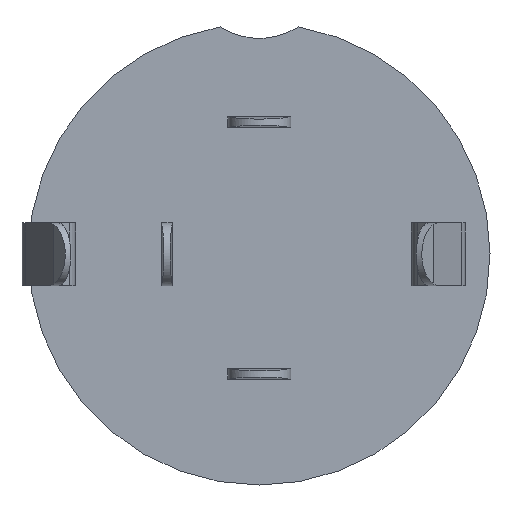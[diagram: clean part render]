
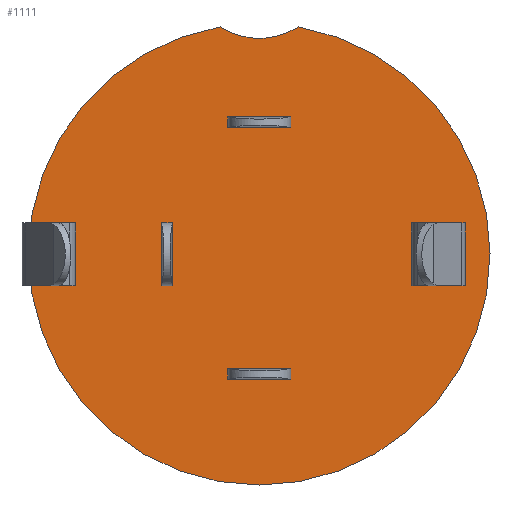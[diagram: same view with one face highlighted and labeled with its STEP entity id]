
A CAD part, front view. The second image highlights one B-rep face of the part: STEP entity #1111.
In plain terms, the highlighted planar face has unit normal (0, -1, 0).
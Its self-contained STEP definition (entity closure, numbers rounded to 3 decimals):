
#1=CARTESIAN_POINT('',(0.,0.,0.));
#2=DIRECTION('',(0.,1.,0.));
#3=DIRECTION('',(0.169,0.,0.986));
#4=AXIS2_PLACEMENT_3D('',#1,#2,#3);
#6=CARTESIAN_POINT('',(0.,0.,6.882));
#7=DIRECTION('',(0.,-1.,0.));
#8=DIRECTION('',(-0.537,0.,-0.844));
#9=AXIS2_PLACEMENT_3D('',#6,#7,#8);
#11=DIRECTION('',(1.,0.,0.));
#12=VECTOR('',#11,0.25);
#13=CARTESIAN_POINT('',(3.625,0.,-0.75));
#14=LINE('',#13,#12);
#15=DIRECTION('',(0.,0.,1.));
#16=VECTOR('',#15,1.5);
#17=CARTESIAN_POINT('',(3.875,0.,-0.75));
#18=LINE('',#17,#16);
#19=DIRECTION('',(1.,0.,0.));
#20=VECTOR('',#19,0.25);
#21=CARTESIAN_POINT('',(3.625,0.,0.75));
#22=LINE('',#21,#20);
#23=DIRECTION('',(0.,0.,1.));
#24=VECTOR('',#23,1.5);
#25=CARTESIAN_POINT('',(3.625,0.,-0.75));
#26=LINE('',#25,#24);
#27=DIRECTION('',(1.,0.,0.));
#28=VECTOR('',#27,0.25);
#29=CARTESIAN_POINT('',(-4.625,0.,-0.75));
#30=LINE('',#29,#28);
#31=DIRECTION('',(0.,0.,1.));
#32=VECTOR('',#31,1.5);
#33=CARTESIAN_POINT('',(-4.375,0.,-0.75));
#34=LINE('',#33,#32);
#35=DIRECTION('',(1.,0.,0.));
#36=VECTOR('',#35,0.25);
#37=CARTESIAN_POINT('',(-4.625,0.,0.75));
#38=LINE('',#37,#36);
#39=DIRECTION('',(0.,0.,1.));
#40=VECTOR('',#39,1.5);
#41=CARTESIAN_POINT('',(-4.625,0.,-0.75));
#42=LINE('',#41,#40);
#43=DIRECTION('',(0.,0.,-1.));
#44=VECTOR('',#43,1.5);
#45=CARTESIAN_POINT('',(-2.325,0.,0.75));
#46=LINE('',#45,#44);
#47=DIRECTION('',(1.,0.,0.));
#48=VECTOR('',#47,0.25);
#49=CARTESIAN_POINT('',(-2.325,0.,-0.75));
#50=LINE('',#49,#48);
#51=DIRECTION('',(0.,0.,1.));
#52=VECTOR('',#51,1.5);
#53=CARTESIAN_POINT('',(-2.075,0.,-0.75));
#54=LINE('',#53,#52);
#55=DIRECTION('',(-1.,0.,0.));
#56=VECTOR('',#55,0.25);
#57=CARTESIAN_POINT('',(-2.075,0.,0.75));
#58=LINE('',#57,#56);
#59=DIRECTION('',(0.,0.,-1.));
#60=VECTOR('',#59,0.25);
#61=CARTESIAN_POINT('',(-0.75,0.,3.275));
#62=LINE('',#61,#60);
#63=DIRECTION('',(1.,0.,0.));
#64=VECTOR('',#63,1.5);
#65=CARTESIAN_POINT('',(-0.75,0.,3.025));
#66=LINE('',#65,#64);
#67=DIRECTION('',(0.,0.,1.));
#68=VECTOR('',#67,0.25);
#69=CARTESIAN_POINT('',(0.75,0.,3.025));
#70=LINE('',#69,#68);
#71=DIRECTION('',(-1.,0.,0.));
#72=VECTOR('',#71,1.5);
#73=CARTESIAN_POINT('',(0.75,0.,3.275));
#74=LINE('',#73,#72);
#75=DIRECTION('',(0.,0.,-1.));
#76=VECTOR('',#75,0.25);
#77=CARTESIAN_POINT('',(-0.75,0.,-2.725));
#78=LINE('',#77,#76);
#79=DIRECTION('',(1.,0.,0.));
#80=VECTOR('',#79,1.5);
#81=CARTESIAN_POINT('',(-0.75,0.,-2.975));
#82=LINE('',#81,#80);
#83=DIRECTION('',(0.,0.,1.));
#84=VECTOR('',#83,0.25);
#85=CARTESIAN_POINT('',(0.75,0.,-2.975));
#86=LINE('',#85,#84);
#87=DIRECTION('',(-1.,0.,0.));
#88=VECTOR('',#87,1.5);
#89=CARTESIAN_POINT('',(0.75,0.,-2.725));
#90=LINE('',#89,#88);
#849=CARTESIAN_POINT('',(0.93,0.,5.421));
#850=CARTESIAN_POINT('',(-0.93,0.,5.421));
#851=VERTEX_POINT('',#849);
#852=VERTEX_POINT('',#850);
#913=CARTESIAN_POINT('',(3.625,0.,-0.75));
#914=CARTESIAN_POINT('',(3.875,0.,-0.75));
#915=VERTEX_POINT('',#913);
#916=VERTEX_POINT('',#914);
#917=CARTESIAN_POINT('',(3.625,0.,0.75));
#918=CARTESIAN_POINT('',(3.875,0.,0.75));
#919=VERTEX_POINT('',#917);
#920=VERTEX_POINT('',#918);
#953=CARTESIAN_POINT('',(-4.375,0.,-0.75));
#954=VERTEX_POINT('',#953);
#955=CARTESIAN_POINT('',(-4.625,0.,-0.75));
#956=VERTEX_POINT('',#955);
#957=CARTESIAN_POINT('',(-4.375,0.,0.75));
#958=VERTEX_POINT('',#957);
#959=CARTESIAN_POINT('',(-4.625,0.,0.75));
#960=VERTEX_POINT('',#959);
#961=CARTESIAN_POINT('',(-2.325,0.,0.75));
#962=CARTESIAN_POINT('',(-2.325,0.,-0.75));
#963=VERTEX_POINT('',#961);
#964=VERTEX_POINT('',#962);
#965=CARTESIAN_POINT('',(-2.075,0.,-0.75));
#966=VERTEX_POINT('',#965);
#967=CARTESIAN_POINT('',(-2.075,0.,0.75));
#968=VERTEX_POINT('',#967);
#969=CARTESIAN_POINT('',(-0.75,0.,3.275));
#970=CARTESIAN_POINT('',(-0.75,0.,3.025));
#971=VERTEX_POINT('',#969);
#972=VERTEX_POINT('',#970);
#973=CARTESIAN_POINT('',(0.75,0.,3.025));
#974=VERTEX_POINT('',#973);
#975=CARTESIAN_POINT('',(0.75,0.,3.275));
#976=VERTEX_POINT('',#975);
#977=CARTESIAN_POINT('',(-0.75,0.,-2.725));
#978=CARTESIAN_POINT('',(-0.75,0.,-2.975));
#979=VERTEX_POINT('',#977);
#980=VERTEX_POINT('',#978);
#981=CARTESIAN_POINT('',(0.75,0.,-2.975));
#982=VERTEX_POINT('',#981);
#983=CARTESIAN_POINT('',(0.75,0.,-2.725));
#984=VERTEX_POINT('',#983);
#1050=CARTESIAN_POINT('',(0.,0.,0.));
#1051=DIRECTION('',(0.,1.,0.));
#1052=DIRECTION('',(1.,0.,0.));
#1053=AXIS2_PLACEMENT_3D('',#1050,#1051,#1052);
#1054=PLANE('',#1053);
#1056=ORIENTED_EDGE('',*,*,#1055,.T.);
#1058=ORIENTED_EDGE('',*,*,#1057,.T.);
#1059=EDGE_LOOP('',(#1056,#1058));
#1060=FACE_OUTER_BOUND('',#1059,.F.);
#1062=ORIENTED_EDGE('',*,*,#1061,.T.);
#1064=ORIENTED_EDGE('',*,*,#1063,.T.);
#1066=ORIENTED_EDGE('',*,*,#1065,.F.);
#1068=ORIENTED_EDGE('',*,*,#1067,.F.);
#1069=EDGE_LOOP('',(#1062,#1064,#1066,#1068));
#1070=FACE_BOUND('',#1069,.F.);
#1072=ORIENTED_EDGE('',*,*,#1071,.T.);
#1074=ORIENTED_EDGE('',*,*,#1073,.T.);
#1076=ORIENTED_EDGE('',*,*,#1075,.F.);
#1078=ORIENTED_EDGE('',*,*,#1077,.F.);
#1079=EDGE_LOOP('',(#1072,#1074,#1076,#1078));
#1080=FACE_BOUND('',#1079,.F.);
#1082=ORIENTED_EDGE('',*,*,#1081,.T.);
#1084=ORIENTED_EDGE('',*,*,#1083,.T.);
#1086=ORIENTED_EDGE('',*,*,#1085,.T.);
#1088=ORIENTED_EDGE('',*,*,#1087,.T.);
#1089=EDGE_LOOP('',(#1082,#1084,#1086,#1088));
#1090=FACE_BOUND('',#1089,.F.);
#1092=ORIENTED_EDGE('',*,*,#1091,.T.);
#1094=ORIENTED_EDGE('',*,*,#1093,.T.);
#1096=ORIENTED_EDGE('',*,*,#1095,.T.);
#1098=ORIENTED_EDGE('',*,*,#1097,.T.);
#1099=EDGE_LOOP('',(#1092,#1094,#1096,#1098));
#1100=FACE_BOUND('',#1099,.F.);
#1102=ORIENTED_EDGE('',*,*,#1101,.T.);
#1104=ORIENTED_EDGE('',*,*,#1103,.T.);
#1106=ORIENTED_EDGE('',*,*,#1105,.T.);
#1108=ORIENTED_EDGE('',*,*,#1107,.T.);
#1109=EDGE_LOOP('',(#1102,#1104,#1106,#1108));
#1110=FACE_BOUND('',#1109,.F.);
#5=CIRCLE('',#4,5.5);
#10=CIRCLE('',#9,1.732);
#1055=EDGE_CURVE('',#851,#852,#5,.T.);
#1057=EDGE_CURVE('',#852,#851,#10,.T.);
#1061=EDGE_CURVE('',#915,#916,#14,.T.);
#1063=EDGE_CURVE('',#916,#920,#18,.T.);
#1065=EDGE_CURVE('',#919,#920,#22,.T.);
#1067=EDGE_CURVE('',#915,#919,#26,.T.);
#1071=EDGE_CURVE('',#956,#954,#30,.T.);
#1073=EDGE_CURVE('',#954,#958,#34,.T.);
#1075=EDGE_CURVE('',#960,#958,#38,.T.);
#1077=EDGE_CURVE('',#956,#960,#42,.T.);
#1081=EDGE_CURVE('',#963,#964,#46,.T.);
#1083=EDGE_CURVE('',#964,#966,#50,.T.);
#1085=EDGE_CURVE('',#966,#968,#54,.T.);
#1087=EDGE_CURVE('',#968,#963,#58,.T.);
#1091=EDGE_CURVE('',#971,#972,#62,.T.);
#1093=EDGE_CURVE('',#972,#974,#66,.T.);
#1095=EDGE_CURVE('',#974,#976,#70,.T.);
#1097=EDGE_CURVE('',#976,#971,#74,.T.);
#1101=EDGE_CURVE('',#979,#980,#78,.T.);
#1103=EDGE_CURVE('',#980,#982,#82,.T.);
#1105=EDGE_CURVE('',#982,#984,#86,.T.);
#1107=EDGE_CURVE('',#984,#979,#90,.T.);
#1111=ADVANCED_FACE('',(#1060,#1070,#1080,#1090,#1100,#1110),#1054,.F.);
